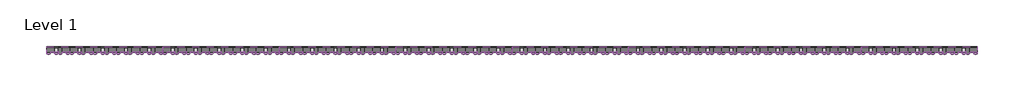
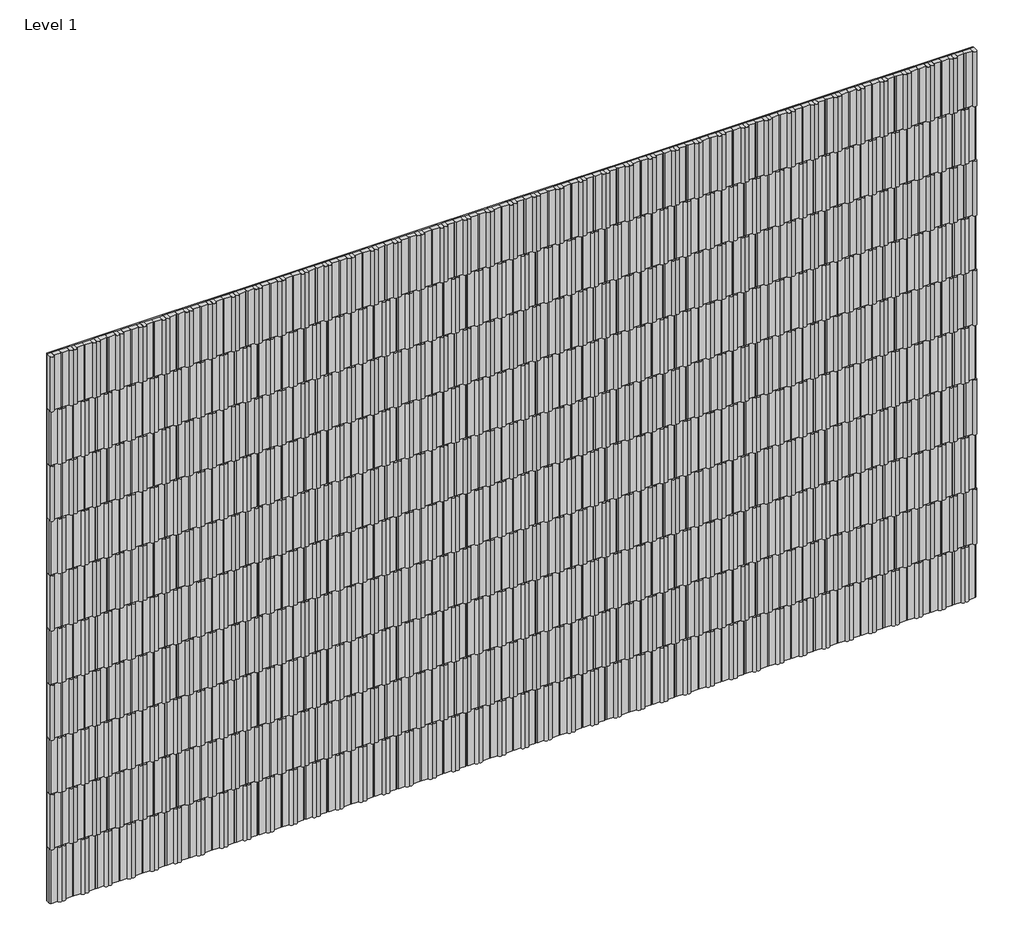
# One storey: 80 proxies.
"""IFC4 building model written with IfcOpenShell, lengths in millimetres."""

from ifc_helpers import new_model, si_unit, origin, place, context, project, spatial, transform, mapped, element, save
from components import tile_a_04621a4c, tile_b_29a99269

model = new_model("IFC4")

# Units and contexts
model_context = context("Model", 3, world=origin())
ifc_project = project(units=[si_unit("LENGTHUNIT", "METRE", prefix="MILLI")], contexts=[model_context])

# Site, building, storey
site = spatial("IfcSite", under=ifc_project)
building = spatial("IfcBuilding", under=site)
storey = spatial("IfcBuildingStorey", under=building, Name="Level 1", Elevation=0.0)

# Proxies
placement = place(None, origin())
tile_a_shape = tile_a_04621a4c(model_context)
element("IfcBuildingElementProxy", 1, Name="Spinneybeck_Søuld Fragments Manufacturing Drawing : Tile A", ObjectType="Spinneybeck_Søuld Fragments Manufacturing Drawing : Tile A", at=placement, inside=storey, context=model_context, shape_type="MappedRepresentation", body=[
    mapped(tile_a_shape, transform((-14839.3033519, -663.006777, 404.8125), x_axis=(1.0, 0.0, 0.0), y_axis=(0.0, 0.0, 1.0), z_axis=(0.0, -1.0, 0.0))),
])
element("IfcBuildingElementProxy", 2, Name="Spinneybeck_Søuld Fragments Manufacturing Drawing : Tile A", ObjectType="Spinneybeck_Søuld Fragments Manufacturing Drawing : Tile A", at=placement, inside=storey, context=model_context, shape_type="MappedRepresentation", body=[
    mapped(tile_a_shape, transform((-14299.5533519, -663.006777, 404.8125), x_axis=(1.0, 0.0, 0.0), y_axis=(0.0, 0.0, 1.0), z_axis=(0.0, -1.0, 0.0))),
])
element("IfcBuildingElementProxy", 3, Name="Spinneybeck_Søuld Fragments Manufacturing Drawing : Tile A", ObjectType="Spinneybeck_Søuld Fragments Manufacturing Drawing : Tile A", at=placement, inside=storey, context=model_context, shape_type="MappedRepresentation", body=[
    mapped(tile_a_shape, transform((-13759.8033519, -663.006777, 404.8125), x_axis=(1.0, 0.0, 0.0), y_axis=(0.0, 0.0, 1.0), z_axis=(0.0, -1.0, 0.0))),
])
element("IfcBuildingElementProxy", 4, Name="Spinneybeck_Søuld Fragments Manufacturing Drawing : Tile A", ObjectType="Spinneybeck_Søuld Fragments Manufacturing Drawing : Tile A", at=placement, inside=storey, context=model_context, shape_type="MappedRepresentation", body=[
    mapped(tile_a_shape, transform((-13220.0533519, -663.006777, 404.8125), x_axis=(1.0, 0.0, 0.0), y_axis=(0.0, 0.0, 1.0), z_axis=(0.0, -1.0, 0.0))),
])
element("IfcBuildingElementProxy", 5, Name="Spinneybeck_Søuld Fragments Manufacturing Drawing : Tile A", ObjectType="Spinneybeck_Søuld Fragments Manufacturing Drawing : Tile A", at=placement, inside=storey, context=model_context, shape_type="MappedRepresentation", body=[
    mapped(tile_a_shape, transform((-12680.3033519, -663.006777, 404.8125), x_axis=(1.0, 0.0, 0.0), y_axis=(0.0, 0.0, 1.0), z_axis=(0.0, -1.0, 0.0))),
])
element("IfcBuildingElementProxy", 6, Name="Spinneybeck_Søuld Fragments Manufacturing Drawing : Tile A", ObjectType="Spinneybeck_Søuld Fragments Manufacturing Drawing : Tile A", at=placement, inside=storey, context=model_context, shape_type="MappedRepresentation", body=[
    mapped(tile_a_shape, transform((-12140.5533519, -663.006777, 404.8125), x_axis=(1.0, 0.0, 0.0), y_axis=(0.0, 0.0, 1.0), z_axis=(0.0, -1.0, 0.0))),
])
element("IfcBuildingElementProxy", 7, Name="Spinneybeck_Søuld Fragments Manufacturing Drawing : Tile A", ObjectType="Spinneybeck_Søuld Fragments Manufacturing Drawing : Tile A", at=placement, inside=storey, context=model_context, shape_type="MappedRepresentation", body=[
    mapped(tile_a_shape, transform((-11600.8033519, -663.006777, 404.8125), x_axis=(1.0, 0.0, 0.0), y_axis=(0.0, 0.0, 1.0), z_axis=(0.0, -1.0, 0.0))),
])
element("IfcBuildingElementProxy", 8, Name="Spinneybeck_Søuld Fragments Manufacturing Drawing : Tile A", ObjectType="Spinneybeck_Søuld Fragments Manufacturing Drawing : Tile A", at=placement, inside=storey, context=model_context, shape_type="MappedRepresentation", body=[
    mapped(tile_a_shape, transform((-11061.0533519, -663.006777, 404.8125), x_axis=(1.0, 0.0, 0.0), y_axis=(0.0, 0.0, 1.0), z_axis=(0.0, -1.0, 0.0))),
])
element("IfcBuildingElementProxy", 9, Name="Spinneybeck_Søuld Fragments Manufacturing Drawing : Tile A", ObjectType="Spinneybeck_Søuld Fragments Manufacturing Drawing : Tile A", at=placement, inside=storey, context=model_context, shape_type="MappedRepresentation", body=[
    mapped(tile_a_shape, transform((-14839.3033519, -663.006777, 944.5625), x_axis=(1.0, 0.0, 0.0), y_axis=(0.0, 0.0, 1.0), z_axis=(0.0, -1.0, 0.0))),
])
element("IfcBuildingElementProxy", 10, Name="Spinneybeck_Søuld Fragments Manufacturing Drawing : Tile A", ObjectType="Spinneybeck_Søuld Fragments Manufacturing Drawing : Tile A", at=placement, inside=storey, context=model_context, shape_type="MappedRepresentation", body=[
    mapped(tile_a_shape, transform((-14299.5533519, -663.006777, 944.5625), x_axis=(1.0, 0.0, 0.0), y_axis=(0.0, 0.0, 1.0), z_axis=(0.0, -1.0, 0.0))),
])
element("IfcBuildingElementProxy", 11, Name="Spinneybeck_Søuld Fragments Manufacturing Drawing : Tile A", ObjectType="Spinneybeck_Søuld Fragments Manufacturing Drawing : Tile A", at=placement, inside=storey, context=model_context, shape_type="MappedRepresentation", body=[
    mapped(tile_a_shape, transform((-13759.8033519, -663.006777, 944.5625), x_axis=(1.0, 0.0, 0.0), y_axis=(0.0, 0.0, 1.0), z_axis=(0.0, -1.0, 0.0))),
])
element("IfcBuildingElementProxy", 12, Name="Spinneybeck_Søuld Fragments Manufacturing Drawing : Tile A", ObjectType="Spinneybeck_Søuld Fragments Manufacturing Drawing : Tile A", at=placement, inside=storey, context=model_context, shape_type="MappedRepresentation", body=[
    mapped(tile_a_shape, transform((-13220.0533519, -663.006777, 944.5625), x_axis=(1.0, 0.0, 0.0), y_axis=(0.0, 0.0, 1.0), z_axis=(0.0, -1.0, 0.0))),
])
element("IfcBuildingElementProxy", 13, Name="Spinneybeck_Søuld Fragments Manufacturing Drawing : Tile A", ObjectType="Spinneybeck_Søuld Fragments Manufacturing Drawing : Tile A", at=placement, inside=storey, context=model_context, shape_type="MappedRepresentation", body=[
    mapped(tile_a_shape, transform((-12680.3033519, -663.006777, 944.5625), x_axis=(1.0, 0.0, 0.0), y_axis=(0.0, 0.0, 1.0), z_axis=(0.0, -1.0, 0.0))),
])
element("IfcBuildingElementProxy", 14, Name="Spinneybeck_Søuld Fragments Manufacturing Drawing : Tile A", ObjectType="Spinneybeck_Søuld Fragments Manufacturing Drawing : Tile A", at=placement, inside=storey, context=model_context, shape_type="MappedRepresentation", body=[
    mapped(tile_a_shape, transform((-12140.5533519, -663.006777, 944.5625), x_axis=(1.0, 0.0, 0.0), y_axis=(0.0, 0.0, 1.0), z_axis=(0.0, -1.0, 0.0))),
])
element("IfcBuildingElementProxy", 15, Name="Spinneybeck_Søuld Fragments Manufacturing Drawing : Tile A", ObjectType="Spinneybeck_Søuld Fragments Manufacturing Drawing : Tile A", at=placement, inside=storey, context=model_context, shape_type="MappedRepresentation", body=[
    mapped(tile_a_shape, transform((-11600.8033519, -663.006777, 944.5625), x_axis=(1.0, 0.0, 0.0), y_axis=(0.0, 0.0, 1.0), z_axis=(0.0, -1.0, 0.0))),
])
element("IfcBuildingElementProxy", 16, Name="Spinneybeck_Søuld Fragments Manufacturing Drawing : Tile A", ObjectType="Spinneybeck_Søuld Fragments Manufacturing Drawing : Tile A", at=placement, inside=storey, context=model_context, shape_type="MappedRepresentation", body=[
    mapped(tile_a_shape, transform((-11061.0533519, -663.006777, 944.5625), x_axis=(1.0, 0.0, 0.0), y_axis=(0.0, 0.0, 1.0), z_axis=(0.0, -1.0, 0.0))),
])
element("IfcBuildingElementProxy", 17, Name="Spinneybeck_Søuld Fragments Manufacturing Drawing : Tile A", ObjectType="Spinneybeck_Søuld Fragments Manufacturing Drawing : Tile A", at=placement, inside=storey, context=model_context, shape_type="MappedRepresentation", body=[
    mapped(tile_a_shape, transform((-14839.3033519, -663.006777, 1484.3125), x_axis=(1.0, 0.0, 0.0), y_axis=(0.0, 0.0, 1.0), z_axis=(0.0, -1.0, 0.0))),
])
element("IfcBuildingElementProxy", 18, Name="Spinneybeck_Søuld Fragments Manufacturing Drawing : Tile A", ObjectType="Spinneybeck_Søuld Fragments Manufacturing Drawing : Tile A", at=placement, inside=storey, context=model_context, shape_type="MappedRepresentation", body=[
    mapped(tile_a_shape, transform((-14299.5533519, -663.006777, 1484.3125), x_axis=(1.0, 0.0, 0.0), y_axis=(0.0, 0.0, 1.0), z_axis=(0.0, -1.0, 0.0))),
])
element("IfcBuildingElementProxy", 19, Name="Spinneybeck_Søuld Fragments Manufacturing Drawing : Tile A", ObjectType="Spinneybeck_Søuld Fragments Manufacturing Drawing : Tile A", at=placement, inside=storey, context=model_context, shape_type="MappedRepresentation", body=[
    mapped(tile_a_shape, transform((-13759.8033519, -663.006777, 1484.3125), x_axis=(1.0, 0.0, 0.0), y_axis=(0.0, 0.0, 1.0), z_axis=(0.0, -1.0, 0.0))),
])
element("IfcBuildingElementProxy", 20, Name="Spinneybeck_Søuld Fragments Manufacturing Drawing : Tile A", ObjectType="Spinneybeck_Søuld Fragments Manufacturing Drawing : Tile A", at=placement, inside=storey, context=model_context, shape_type="MappedRepresentation", body=[
    mapped(tile_a_shape, transform((-13220.0533519, -663.006777, 1484.3125), x_axis=(1.0, 0.0, 0.0), y_axis=(0.0, 0.0, 1.0), z_axis=(0.0, -1.0, 0.0))),
])
element("IfcBuildingElementProxy", 21, Name="Spinneybeck_Søuld Fragments Manufacturing Drawing : Tile A", ObjectType="Spinneybeck_Søuld Fragments Manufacturing Drawing : Tile A", at=placement, inside=storey, context=model_context, shape_type="MappedRepresentation", body=[
    mapped(tile_a_shape, transform((-12680.3033519, -663.006777, 1484.3125), x_axis=(1.0, 0.0, 0.0), y_axis=(0.0, 0.0, 1.0), z_axis=(0.0, -1.0, 0.0))),
])
element("IfcBuildingElementProxy", 22, Name="Spinneybeck_Søuld Fragments Manufacturing Drawing : Tile A", ObjectType="Spinneybeck_Søuld Fragments Manufacturing Drawing : Tile A", at=placement, inside=storey, context=model_context, shape_type="MappedRepresentation", body=[
    mapped(tile_a_shape, transform((-12140.5533519, -663.006777, 1484.3125), x_axis=(1.0, 0.0, 0.0), y_axis=(0.0, 0.0, 1.0), z_axis=(0.0, -1.0, 0.0))),
])
element("IfcBuildingElementProxy", 23, Name="Spinneybeck_Søuld Fragments Manufacturing Drawing : Tile A", ObjectType="Spinneybeck_Søuld Fragments Manufacturing Drawing : Tile A", at=placement, inside=storey, context=model_context, shape_type="MappedRepresentation", body=[
    mapped(tile_a_shape, transform((-11600.8033519, -663.006777, 1484.3125), x_axis=(1.0, 0.0, 0.0), y_axis=(0.0, 0.0, 1.0), z_axis=(0.0, -1.0, 0.0))),
])
element("IfcBuildingElementProxy", 24, Name="Spinneybeck_Søuld Fragments Manufacturing Drawing : Tile A", ObjectType="Spinneybeck_Søuld Fragments Manufacturing Drawing : Tile A", at=placement, inside=storey, context=model_context, shape_type="MappedRepresentation", body=[
    mapped(tile_a_shape, transform((-11061.0533519, -663.006777, 1484.3125), x_axis=(1.0, 0.0, 0.0), y_axis=(0.0, 0.0, 1.0), z_axis=(0.0, -1.0, 0.0))),
])
element("IfcBuildingElementProxy", 25, Name="Spinneybeck_Søuld Fragments Manufacturing Drawing : Tile A", ObjectType="Spinneybeck_Søuld Fragments Manufacturing Drawing : Tile A", at=placement, inside=storey, context=model_context, shape_type="MappedRepresentation", body=[
    mapped(tile_a_shape, transform((-14839.3033519, -663.006777, 2024.0625), x_axis=(1.0, 0.0, 0.0), y_axis=(0.0, 0.0, 1.0), z_axis=(0.0, -1.0, 0.0))),
])
element("IfcBuildingElementProxy", 26, Name="Spinneybeck_Søuld Fragments Manufacturing Drawing : Tile A", ObjectType="Spinneybeck_Søuld Fragments Manufacturing Drawing : Tile A", at=placement, inside=storey, context=model_context, shape_type="MappedRepresentation", body=[
    mapped(tile_a_shape, transform((-14299.5533519, -663.006777, 2024.0625), x_axis=(1.0, 0.0, 0.0), y_axis=(0.0, 0.0, 1.0), z_axis=(0.0, -1.0, 0.0))),
])
element("IfcBuildingElementProxy", 27, Name="Spinneybeck_Søuld Fragments Manufacturing Drawing : Tile A", ObjectType="Spinneybeck_Søuld Fragments Manufacturing Drawing : Tile A", at=placement, inside=storey, context=model_context, shape_type="MappedRepresentation", body=[
    mapped(tile_a_shape, transform((-13759.8033519, -663.006777, 2024.0625), x_axis=(1.0, 0.0, 0.0), y_axis=(0.0, 0.0, 1.0), z_axis=(0.0, -1.0, 0.0))),
])
element("IfcBuildingElementProxy", 28, Name="Spinneybeck_Søuld Fragments Manufacturing Drawing : Tile A", ObjectType="Spinneybeck_Søuld Fragments Manufacturing Drawing : Tile A", at=placement, inside=storey, context=model_context, shape_type="MappedRepresentation", body=[
    mapped(tile_a_shape, transform((-13220.0533519, -663.006777, 2024.0625), x_axis=(1.0, 0.0, 0.0), y_axis=(0.0, 0.0, 1.0), z_axis=(0.0, -1.0, 0.0))),
])
element("IfcBuildingElementProxy", 29, Name="Spinneybeck_Søuld Fragments Manufacturing Drawing : Tile A", ObjectType="Spinneybeck_Søuld Fragments Manufacturing Drawing : Tile A", at=placement, inside=storey, context=model_context, shape_type="MappedRepresentation", body=[
    mapped(tile_a_shape, transform((-12680.3033519, -663.006777, 2024.0625), x_axis=(1.0, 0.0, 0.0), y_axis=(0.0, 0.0, 1.0), z_axis=(0.0, -1.0, 0.0))),
])
element("IfcBuildingElementProxy", 30, Name="Spinneybeck_Søuld Fragments Manufacturing Drawing : Tile A", ObjectType="Spinneybeck_Søuld Fragments Manufacturing Drawing : Tile A", at=placement, inside=storey, context=model_context, shape_type="MappedRepresentation", body=[
    mapped(tile_a_shape, transform((-12140.5533519, -663.006777, 2024.0625), x_axis=(1.0, 0.0, 0.0), y_axis=(0.0, 0.0, 1.0), z_axis=(0.0, -1.0, 0.0))),
])
element("IfcBuildingElementProxy", 31, Name="Spinneybeck_Søuld Fragments Manufacturing Drawing : Tile A", ObjectType="Spinneybeck_Søuld Fragments Manufacturing Drawing : Tile A", at=placement, inside=storey, context=model_context, shape_type="MappedRepresentation", body=[
    mapped(tile_a_shape, transform((-11600.8033519, -663.006777, 2024.0625), x_axis=(1.0, 0.0, 0.0), y_axis=(0.0, 0.0, 1.0), z_axis=(0.0, -1.0, 0.0))),
])
element("IfcBuildingElementProxy", 32, Name="Spinneybeck_Søuld Fragments Manufacturing Drawing : Tile A", ObjectType="Spinneybeck_Søuld Fragments Manufacturing Drawing : Tile A", at=placement, inside=storey, context=model_context, shape_type="MappedRepresentation", body=[
    mapped(tile_a_shape, transform((-11061.0533519, -663.006777, 2024.0625), x_axis=(1.0, 0.0, 0.0), y_axis=(0.0, 0.0, 1.0), z_axis=(0.0, -1.0, 0.0))),
])
element("IfcBuildingElementProxy", 33, Name="Spinneybeck_Søuld Fragments Manufacturing Drawing : Tile A", ObjectType="Spinneybeck_Søuld Fragments Manufacturing Drawing : Tile A", at=placement, inside=storey, context=model_context, shape_type="MappedRepresentation", body=[
    mapped(tile_a_shape, transform((-14839.3033519, -663.006777, 2563.8125), x_axis=(1.0, 0.0, 0.0), y_axis=(0.0, 0.0, 1.0), z_axis=(0.0, -1.0, 0.0))),
])
element("IfcBuildingElementProxy", 34, Name="Spinneybeck_Søuld Fragments Manufacturing Drawing : Tile A", ObjectType="Spinneybeck_Søuld Fragments Manufacturing Drawing : Tile A", at=placement, inside=storey, context=model_context, shape_type="MappedRepresentation", body=[
    mapped(tile_a_shape, transform((-14299.5533519, -663.006777, 2563.8125), x_axis=(1.0, 0.0, 0.0), y_axis=(0.0, 0.0, 1.0), z_axis=(0.0, -1.0, 0.0))),
])
element("IfcBuildingElementProxy", 35, Name="Spinneybeck_Søuld Fragments Manufacturing Drawing : Tile A", ObjectType="Spinneybeck_Søuld Fragments Manufacturing Drawing : Tile A", at=placement, inside=storey, context=model_context, shape_type="MappedRepresentation", body=[
    mapped(tile_a_shape, transform((-13759.8033519, -663.006777, 2563.8125), x_axis=(1.0, 0.0, 0.0), y_axis=(0.0, 0.0, 1.0), z_axis=(0.0, -1.0, 0.0))),
])
element("IfcBuildingElementProxy", 36, Name="Spinneybeck_Søuld Fragments Manufacturing Drawing : Tile A", ObjectType="Spinneybeck_Søuld Fragments Manufacturing Drawing : Tile A", at=placement, inside=storey, context=model_context, shape_type="MappedRepresentation", body=[
    mapped(tile_a_shape, transform((-13220.0533519, -663.006777, 2563.8125), x_axis=(1.0, 0.0, 0.0), y_axis=(0.0, 0.0, 1.0), z_axis=(0.0, -1.0, 0.0))),
])
element("IfcBuildingElementProxy", 37, Name="Spinneybeck_Søuld Fragments Manufacturing Drawing : Tile A", ObjectType="Spinneybeck_Søuld Fragments Manufacturing Drawing : Tile A", at=placement, inside=storey, context=model_context, shape_type="MappedRepresentation", body=[
    mapped(tile_a_shape, transform((-12680.3033519, -663.006777, 2563.8125), x_axis=(1.0, 0.0, 0.0), y_axis=(0.0, 0.0, 1.0), z_axis=(0.0, -1.0, 0.0))),
])
element("IfcBuildingElementProxy", 38, Name="Spinneybeck_Søuld Fragments Manufacturing Drawing : Tile A", ObjectType="Spinneybeck_Søuld Fragments Manufacturing Drawing : Tile A", at=placement, inside=storey, context=model_context, shape_type="MappedRepresentation", body=[
    mapped(tile_a_shape, transform((-12140.5533519, -663.006777, 2563.8125), x_axis=(1.0, 0.0, 0.0), y_axis=(0.0, 0.0, 1.0), z_axis=(0.0, -1.0, 0.0))),
])
element("IfcBuildingElementProxy", 39, Name="Spinneybeck_Søuld Fragments Manufacturing Drawing : Tile A", ObjectType="Spinneybeck_Søuld Fragments Manufacturing Drawing : Tile A", at=placement, inside=storey, context=model_context, shape_type="MappedRepresentation", body=[
    mapped(tile_a_shape, transform((-11600.8033519, -663.006777, 2563.8125), x_axis=(1.0, 0.0, 0.0), y_axis=(0.0, 0.0, 1.0), z_axis=(0.0, -1.0, 0.0))),
])
element("IfcBuildingElementProxy", 40, Name="Spinneybeck_Søuld Fragments Manufacturing Drawing : Tile A", ObjectType="Spinneybeck_Søuld Fragments Manufacturing Drawing : Tile A", at=placement, inside=storey, context=model_context, shape_type="MappedRepresentation", body=[
    mapped(tile_a_shape, transform((-11061.0533519, -663.006777, 2563.8125), x_axis=(1.0, 0.0, 0.0), y_axis=(0.0, 0.0, 1.0), z_axis=(0.0, -1.0, 0.0))),
])
tile_b_shape = tile_b_29a99269(model_context)
element("IfcBuildingElementProxy", 41, Name="Spinneybeck_Søuld Fragments Manufacturing Drawing : Tile B", ObjectType="Spinneybeck_Søuld Fragments Manufacturing Drawing : Tile B", at=placement, inside=storey, context=model_context, shape_type="MappedRepresentation", body=[
    mapped(tile_b_shape, transform((-14839.3033519, -663.006777, 134.9375), x_axis=(1.0, 0.0, 0.0), y_axis=(0.0, 0.0, 1.0), z_axis=(0.0, -1.0, 0.0))),
])
element("IfcBuildingElementProxy", 42, Name="Spinneybeck_Søuld Fragments Manufacturing Drawing : Tile B", ObjectType="Spinneybeck_Søuld Fragments Manufacturing Drawing : Tile B", at=placement, inside=storey, context=model_context, shape_type="MappedRepresentation", body=[
    mapped(tile_b_shape, transform((-14299.5533519, -663.006777, 134.9375), x_axis=(1.0, 0.0, 0.0), y_axis=(0.0, 0.0, 1.0), z_axis=(0.0, -1.0, 0.0))),
])
element("IfcBuildingElementProxy", 43, Name="Spinneybeck_Søuld Fragments Manufacturing Drawing : Tile B", ObjectType="Spinneybeck_Søuld Fragments Manufacturing Drawing : Tile B", at=placement, inside=storey, context=model_context, shape_type="MappedRepresentation", body=[
    mapped(tile_b_shape, transform((-13759.8033519, -663.006777, 134.9375), x_axis=(1.0, 0.0, 0.0), y_axis=(0.0, 0.0, 1.0), z_axis=(0.0, -1.0, 0.0))),
])
element("IfcBuildingElementProxy", 44, Name="Spinneybeck_Søuld Fragments Manufacturing Drawing : Tile B", ObjectType="Spinneybeck_Søuld Fragments Manufacturing Drawing : Tile B", at=placement, inside=storey, context=model_context, shape_type="MappedRepresentation", body=[
    mapped(tile_b_shape, transform((-13220.0533519, -663.006777, 134.9375), x_axis=(1.0, 0.0, 0.0), y_axis=(0.0, 0.0, 1.0), z_axis=(0.0, -1.0, 0.0))),
])
element("IfcBuildingElementProxy", 45, Name="Spinneybeck_Søuld Fragments Manufacturing Drawing : Tile B", ObjectType="Spinneybeck_Søuld Fragments Manufacturing Drawing : Tile B", at=placement, inside=storey, context=model_context, shape_type="MappedRepresentation", body=[
    mapped(tile_b_shape, transform((-12680.3033519, -663.006777, 134.9375), x_axis=(1.0, 0.0, 0.0), y_axis=(0.0, 0.0, 1.0), z_axis=(0.0, -1.0, 0.0))),
])
element("IfcBuildingElementProxy", 46, Name="Spinneybeck_Søuld Fragments Manufacturing Drawing : Tile B", ObjectType="Spinneybeck_Søuld Fragments Manufacturing Drawing : Tile B", at=placement, inside=storey, context=model_context, shape_type="MappedRepresentation", body=[
    mapped(tile_b_shape, transform((-12140.5533519, -663.006777, 134.9375), x_axis=(1.0, 0.0, 0.0), y_axis=(0.0, 0.0, 1.0), z_axis=(0.0, -1.0, 0.0))),
])
element("IfcBuildingElementProxy", 47, Name="Spinneybeck_Søuld Fragments Manufacturing Drawing : Tile B", ObjectType="Spinneybeck_Søuld Fragments Manufacturing Drawing : Tile B", at=placement, inside=storey, context=model_context, shape_type="MappedRepresentation", body=[
    mapped(tile_b_shape, transform((-11600.8033519, -663.006777, 134.9375), x_axis=(1.0, 0.0, 0.0), y_axis=(0.0, 0.0, 1.0), z_axis=(0.0, -1.0, 0.0))),
])
element("IfcBuildingElementProxy", 48, Name="Spinneybeck_Søuld Fragments Manufacturing Drawing : Tile B", ObjectType="Spinneybeck_Søuld Fragments Manufacturing Drawing : Tile B", at=placement, inside=storey, context=model_context, shape_type="MappedRepresentation", body=[
    mapped(tile_b_shape, transform((-11061.0533519, -663.006777, 134.9375), x_axis=(1.0, 0.0, 0.0), y_axis=(0.0, 0.0, 1.0), z_axis=(0.0, -1.0, 0.0))),
])
element("IfcBuildingElementProxy", 49, Name="Spinneybeck_Søuld Fragments Manufacturing Drawing : Tile B", ObjectType="Spinneybeck_Søuld Fragments Manufacturing Drawing : Tile B", at=placement, inside=storey, context=model_context, shape_type="MappedRepresentation", body=[
    mapped(tile_b_shape, transform((-14839.3033519, -663.006777, 674.6875), x_axis=(1.0, 0.0, 0.0), y_axis=(0.0, 0.0, 1.0), z_axis=(0.0, -1.0, 0.0))),
])
element("IfcBuildingElementProxy", 50, Name="Spinneybeck_Søuld Fragments Manufacturing Drawing : Tile B", ObjectType="Spinneybeck_Søuld Fragments Manufacturing Drawing : Tile B", at=placement, inside=storey, context=model_context, shape_type="MappedRepresentation", body=[
    mapped(tile_b_shape, transform((-14299.5533519, -663.006777, 674.6875), x_axis=(1.0, 0.0, 0.0), y_axis=(0.0, 0.0, 1.0), z_axis=(0.0, -1.0, 0.0))),
])
element("IfcBuildingElementProxy", 51, Name="Spinneybeck_Søuld Fragments Manufacturing Drawing : Tile B", ObjectType="Spinneybeck_Søuld Fragments Manufacturing Drawing : Tile B", at=placement, inside=storey, context=model_context, shape_type="MappedRepresentation", body=[
    mapped(tile_b_shape, transform((-13759.8033519, -663.006777, 674.6875), x_axis=(1.0, 0.0, 0.0), y_axis=(0.0, 0.0, 1.0), z_axis=(0.0, -1.0, 0.0))),
])
element("IfcBuildingElementProxy", 52, Name="Spinneybeck_Søuld Fragments Manufacturing Drawing : Tile B", ObjectType="Spinneybeck_Søuld Fragments Manufacturing Drawing : Tile B", at=placement, inside=storey, context=model_context, shape_type="MappedRepresentation", body=[
    mapped(tile_b_shape, transform((-13220.0533519, -663.006777, 674.6875), x_axis=(1.0, 0.0, 0.0), y_axis=(0.0, 0.0, 1.0), z_axis=(0.0, -1.0, 0.0))),
])
element("IfcBuildingElementProxy", 53, Name="Spinneybeck_Søuld Fragments Manufacturing Drawing : Tile B", ObjectType="Spinneybeck_Søuld Fragments Manufacturing Drawing : Tile B", at=placement, inside=storey, context=model_context, shape_type="MappedRepresentation", body=[
    mapped(tile_b_shape, transform((-12680.3033519, -663.006777, 674.6875), x_axis=(1.0, 0.0, 0.0), y_axis=(0.0, 0.0, 1.0), z_axis=(0.0, -1.0, 0.0))),
])
element("IfcBuildingElementProxy", 54, Name="Spinneybeck_Søuld Fragments Manufacturing Drawing : Tile B", ObjectType="Spinneybeck_Søuld Fragments Manufacturing Drawing : Tile B", at=placement, inside=storey, context=model_context, shape_type="MappedRepresentation", body=[
    mapped(tile_b_shape, transform((-12140.5533519, -663.006777, 674.6875), x_axis=(1.0, 0.0, 0.0), y_axis=(0.0, 0.0, 1.0), z_axis=(0.0, -1.0, 0.0))),
])
element("IfcBuildingElementProxy", 55, Name="Spinneybeck_Søuld Fragments Manufacturing Drawing : Tile B", ObjectType="Spinneybeck_Søuld Fragments Manufacturing Drawing : Tile B", at=placement, inside=storey, context=model_context, shape_type="MappedRepresentation", body=[
    mapped(tile_b_shape, transform((-11600.8033519, -663.006777, 674.6875), x_axis=(1.0, 0.0, 0.0), y_axis=(0.0, 0.0, 1.0), z_axis=(0.0, -1.0, 0.0))),
])
element("IfcBuildingElementProxy", 56, Name="Spinneybeck_Søuld Fragments Manufacturing Drawing : Tile B", ObjectType="Spinneybeck_Søuld Fragments Manufacturing Drawing : Tile B", at=placement, inside=storey, context=model_context, shape_type="MappedRepresentation", body=[
    mapped(tile_b_shape, transform((-11061.0533519, -663.006777, 674.6875), x_axis=(1.0, 0.0, 0.0), y_axis=(0.0, 0.0, 1.0), z_axis=(0.0, -1.0, 0.0))),
])
element("IfcBuildingElementProxy", 57, Name="Spinneybeck_Søuld Fragments Manufacturing Drawing : Tile B", ObjectType="Spinneybeck_Søuld Fragments Manufacturing Drawing : Tile B", at=placement, inside=storey, context=model_context, shape_type="MappedRepresentation", body=[
    mapped(tile_b_shape, transform((-14839.3033519, -663.006777, 1214.4375), x_axis=(1.0, 0.0, 0.0), y_axis=(0.0, 0.0, 1.0), z_axis=(0.0, -1.0, 0.0))),
])
element("IfcBuildingElementProxy", 58, Name="Spinneybeck_Søuld Fragments Manufacturing Drawing : Tile B", ObjectType="Spinneybeck_Søuld Fragments Manufacturing Drawing : Tile B", at=placement, inside=storey, context=model_context, shape_type="MappedRepresentation", body=[
    mapped(tile_b_shape, transform((-14299.5533519, -663.006777, 1214.4375), x_axis=(1.0, 0.0, 0.0), y_axis=(0.0, 0.0, 1.0), z_axis=(0.0, -1.0, 0.0))),
])
element("IfcBuildingElementProxy", 59, Name="Spinneybeck_Søuld Fragments Manufacturing Drawing : Tile B", ObjectType="Spinneybeck_Søuld Fragments Manufacturing Drawing : Tile B", at=placement, inside=storey, context=model_context, shape_type="MappedRepresentation", body=[
    mapped(tile_b_shape, transform((-13759.8033519, -663.006777, 1214.4375), x_axis=(1.0, 0.0, 0.0), y_axis=(0.0, 0.0, 1.0), z_axis=(0.0, -1.0, 0.0))),
])
element("IfcBuildingElementProxy", 60, Name="Spinneybeck_Søuld Fragments Manufacturing Drawing : Tile B", ObjectType="Spinneybeck_Søuld Fragments Manufacturing Drawing : Tile B", at=placement, inside=storey, context=model_context, shape_type="MappedRepresentation", body=[
    mapped(tile_b_shape, transform((-13220.0533519, -663.006777, 1214.4375), x_axis=(1.0, 0.0, 0.0), y_axis=(0.0, 0.0, 1.0), z_axis=(0.0, -1.0, 0.0))),
])
element("IfcBuildingElementProxy", 61, Name="Spinneybeck_Søuld Fragments Manufacturing Drawing : Tile B", ObjectType="Spinneybeck_Søuld Fragments Manufacturing Drawing : Tile B", at=placement, inside=storey, context=model_context, shape_type="MappedRepresentation", body=[
    mapped(tile_b_shape, transform((-12680.3033519, -663.006777, 1214.4375), x_axis=(1.0, 0.0, 0.0), y_axis=(0.0, 0.0, 1.0), z_axis=(0.0, -1.0, 0.0))),
])
element("IfcBuildingElementProxy", 62, Name="Spinneybeck_Søuld Fragments Manufacturing Drawing : Tile B", ObjectType="Spinneybeck_Søuld Fragments Manufacturing Drawing : Tile B", at=placement, inside=storey, context=model_context, shape_type="MappedRepresentation", body=[
    mapped(tile_b_shape, transform((-12140.5533519, -663.006777, 1214.4375), x_axis=(1.0, 0.0, 0.0), y_axis=(0.0, 0.0, 1.0), z_axis=(0.0, -1.0, 0.0))),
])
element("IfcBuildingElementProxy", 63, Name="Spinneybeck_Søuld Fragments Manufacturing Drawing : Tile B", ObjectType="Spinneybeck_Søuld Fragments Manufacturing Drawing : Tile B", at=placement, inside=storey, context=model_context, shape_type="MappedRepresentation", body=[
    mapped(tile_b_shape, transform((-11600.8033519, -663.006777, 1214.4375), x_axis=(1.0, 0.0, 0.0), y_axis=(0.0, 0.0, 1.0), z_axis=(0.0, -1.0, 0.0))),
])
element("IfcBuildingElementProxy", 64, Name="Spinneybeck_Søuld Fragments Manufacturing Drawing : Tile B", ObjectType="Spinneybeck_Søuld Fragments Manufacturing Drawing : Tile B", at=placement, inside=storey, context=model_context, shape_type="MappedRepresentation", body=[
    mapped(tile_b_shape, transform((-11061.0533519, -663.006777, 1214.4375), x_axis=(1.0, 0.0, 0.0), y_axis=(0.0, 0.0, 1.0), z_axis=(0.0, -1.0, 0.0))),
])
element("IfcBuildingElementProxy", 65, Name="Spinneybeck_Søuld Fragments Manufacturing Drawing : Tile B", ObjectType="Spinneybeck_Søuld Fragments Manufacturing Drawing : Tile B", at=placement, inside=storey, context=model_context, shape_type="MappedRepresentation", body=[
    mapped(tile_b_shape, transform((-14839.3033519, -663.006777, 1754.1875), x_axis=(1.0, 0.0, 0.0), y_axis=(0.0, 0.0, 1.0), z_axis=(0.0, -1.0, 0.0))),
])
element("IfcBuildingElementProxy", 66, Name="Spinneybeck_Søuld Fragments Manufacturing Drawing : Tile B", ObjectType="Spinneybeck_Søuld Fragments Manufacturing Drawing : Tile B", at=placement, inside=storey, context=model_context, shape_type="MappedRepresentation", body=[
    mapped(tile_b_shape, transform((-14299.5533519, -663.006777, 1754.1875), x_axis=(1.0, 0.0, 0.0), y_axis=(0.0, 0.0, 1.0), z_axis=(0.0, -1.0, 0.0))),
])
element("IfcBuildingElementProxy", 67, Name="Spinneybeck_Søuld Fragments Manufacturing Drawing : Tile B", ObjectType="Spinneybeck_Søuld Fragments Manufacturing Drawing : Tile B", at=placement, inside=storey, context=model_context, shape_type="MappedRepresentation", body=[
    mapped(tile_b_shape, transform((-13759.8033519, -663.006777, 1754.1875), x_axis=(1.0, 0.0, 0.0), y_axis=(0.0, 0.0, 1.0), z_axis=(0.0, -1.0, 0.0))),
])
element("IfcBuildingElementProxy", 68, Name="Spinneybeck_Søuld Fragments Manufacturing Drawing : Tile B", ObjectType="Spinneybeck_Søuld Fragments Manufacturing Drawing : Tile B", at=placement, inside=storey, context=model_context, shape_type="MappedRepresentation", body=[
    mapped(tile_b_shape, transform((-13220.0533519, -663.006777, 1754.1875), x_axis=(1.0, 0.0, 0.0), y_axis=(0.0, 0.0, 1.0), z_axis=(0.0, -1.0, 0.0))),
])
element("IfcBuildingElementProxy", 69, Name="Spinneybeck_Søuld Fragments Manufacturing Drawing : Tile B", ObjectType="Spinneybeck_Søuld Fragments Manufacturing Drawing : Tile B", at=placement, inside=storey, context=model_context, shape_type="MappedRepresentation", body=[
    mapped(tile_b_shape, transform((-12680.3033519, -663.006777, 1754.1875), x_axis=(1.0, 0.0, 0.0), y_axis=(0.0, 0.0, 1.0), z_axis=(0.0, -1.0, 0.0))),
])
element("IfcBuildingElementProxy", 70, Name="Spinneybeck_Søuld Fragments Manufacturing Drawing : Tile B", ObjectType="Spinneybeck_Søuld Fragments Manufacturing Drawing : Tile B", at=placement, inside=storey, context=model_context, shape_type="MappedRepresentation", body=[
    mapped(tile_b_shape, transform((-12140.5533519, -663.006777, 1754.1875), x_axis=(1.0, 0.0, 0.0), y_axis=(0.0, 0.0, 1.0), z_axis=(0.0, -1.0, 0.0))),
])
element("IfcBuildingElementProxy", 71, Name="Spinneybeck_Søuld Fragments Manufacturing Drawing : Tile B", ObjectType="Spinneybeck_Søuld Fragments Manufacturing Drawing : Tile B", at=placement, inside=storey, context=model_context, shape_type="MappedRepresentation", body=[
    mapped(tile_b_shape, transform((-11600.8033519, -663.006777, 1754.1875), x_axis=(1.0, 0.0, 0.0), y_axis=(0.0, 0.0, 1.0), z_axis=(0.0, -1.0, 0.0))),
])
element("IfcBuildingElementProxy", 72, Name="Spinneybeck_Søuld Fragments Manufacturing Drawing : Tile B", ObjectType="Spinneybeck_Søuld Fragments Manufacturing Drawing : Tile B", at=placement, inside=storey, context=model_context, shape_type="MappedRepresentation", body=[
    mapped(tile_b_shape, transform((-11061.0533519, -663.006777, 1754.1875), x_axis=(1.0, 0.0, 0.0), y_axis=(0.0, 0.0, 1.0), z_axis=(0.0, -1.0, 0.0))),
])
element("IfcBuildingElementProxy", 73, Name="Spinneybeck_Søuld Fragments Manufacturing Drawing : Tile B", ObjectType="Spinneybeck_Søuld Fragments Manufacturing Drawing : Tile B", at=placement, inside=storey, context=model_context, shape_type="MappedRepresentation", body=[
    mapped(tile_b_shape, transform((-14839.3033519, -663.006777, 2293.9375), x_axis=(1.0, 0.0, 0.0), y_axis=(0.0, 0.0, 1.0), z_axis=(0.0, -1.0, 0.0))),
])
element("IfcBuildingElementProxy", 74, Name="Spinneybeck_Søuld Fragments Manufacturing Drawing : Tile B", ObjectType="Spinneybeck_Søuld Fragments Manufacturing Drawing : Tile B", at=placement, inside=storey, context=model_context, shape_type="MappedRepresentation", body=[
    mapped(tile_b_shape, transform((-14299.5533519, -663.006777, 2293.9375), x_axis=(1.0, 0.0, 0.0), y_axis=(0.0, 0.0, 1.0), z_axis=(0.0, -1.0, 0.0))),
])
element("IfcBuildingElementProxy", 75, Name="Spinneybeck_Søuld Fragments Manufacturing Drawing : Tile B", ObjectType="Spinneybeck_Søuld Fragments Manufacturing Drawing : Tile B", at=placement, inside=storey, context=model_context, shape_type="MappedRepresentation", body=[
    mapped(tile_b_shape, transform((-13759.8033519, -663.006777, 2293.9375), x_axis=(1.0, 0.0, 0.0), y_axis=(0.0, 0.0, 1.0), z_axis=(0.0, -1.0, 0.0))),
])
element("IfcBuildingElementProxy", 76, Name="Spinneybeck_Søuld Fragments Manufacturing Drawing : Tile B", ObjectType="Spinneybeck_Søuld Fragments Manufacturing Drawing : Tile B", at=placement, inside=storey, context=model_context, shape_type="MappedRepresentation", body=[
    mapped(tile_b_shape, transform((-13220.0533519, -663.006777, 2293.9375), x_axis=(1.0, 0.0, 0.0), y_axis=(0.0, 0.0, 1.0), z_axis=(0.0, -1.0, 0.0))),
])
element("IfcBuildingElementProxy", 77, Name="Spinneybeck_Søuld Fragments Manufacturing Drawing : Tile B", ObjectType="Spinneybeck_Søuld Fragments Manufacturing Drawing : Tile B", at=placement, inside=storey, context=model_context, shape_type="MappedRepresentation", body=[
    mapped(tile_b_shape, transform((-12680.3033519, -663.006777, 2293.9375), x_axis=(1.0, 0.0, 0.0), y_axis=(0.0, 0.0, 1.0), z_axis=(0.0, -1.0, 0.0))),
])
element("IfcBuildingElementProxy", 78, Name="Spinneybeck_Søuld Fragments Manufacturing Drawing : Tile B", ObjectType="Spinneybeck_Søuld Fragments Manufacturing Drawing : Tile B", at=placement, inside=storey, context=model_context, shape_type="MappedRepresentation", body=[
    mapped(tile_b_shape, transform((-12140.5533519, -663.006777, 2293.9375), x_axis=(1.0, 0.0, 0.0), y_axis=(0.0, 0.0, 1.0), z_axis=(0.0, -1.0, 0.0))),
])
element("IfcBuildingElementProxy", 79, Name="Spinneybeck_Søuld Fragments Manufacturing Drawing : Tile B", ObjectType="Spinneybeck_Søuld Fragments Manufacturing Drawing : Tile B", at=placement, inside=storey, context=model_context, shape_type="MappedRepresentation", body=[
    mapped(tile_b_shape, transform((-11600.8033519, -663.006777, 2293.9375), x_axis=(1.0, 0.0, 0.0), y_axis=(0.0, 0.0, 1.0), z_axis=(0.0, -1.0, 0.0))),
])
element("IfcBuildingElementProxy", 80, Name="Spinneybeck_Søuld Fragments Manufacturing Drawing : Tile B", ObjectType="Spinneybeck_Søuld Fragments Manufacturing Drawing : Tile B", at=placement, inside=storey, context=model_context, shape_type="MappedRepresentation", body=[
    mapped(tile_b_shape, transform((-11061.0533519, -663.006777, 2293.9375), x_axis=(1.0, 0.0, 0.0), y_axis=(0.0, 0.0, 1.0), z_axis=(0.0, -1.0, 0.0))),
])

save(model, "model.ifc")
